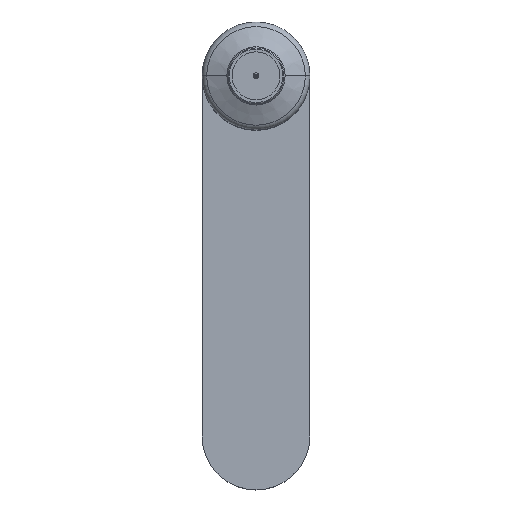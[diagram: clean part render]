
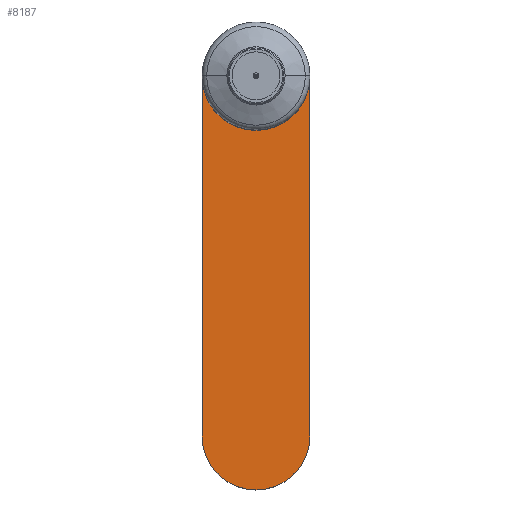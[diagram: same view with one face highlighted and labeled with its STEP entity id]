
A CAD part, top view. The second image highlights one B-rep face of the part: STEP entity #8187.
In plain terms, the highlighted planar face has unit normal (0, 0, 1).
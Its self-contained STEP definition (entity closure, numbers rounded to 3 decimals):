
#47 = AXIS2_PLACEMENT_3D ( 'NONE', #3937, #4751, #92 ) ;
#92 = DIRECTION ( 'NONE',  ( 0., -1., 0. ) ) ;
#249 = ORIENTED_EDGE ( 'NONE', *, *, #4596, .T. ) ;
#308 = DIRECTION ( 'NONE',  ( 0., 1., 0. ) ) ;
#328 = CIRCLE ( 'NONE', #4452, 13.5 ) ;
#339 = CARTESIAN_POINT ( 'NONE',  ( 0., 0., 15. ) ) ;
#1225 = EDGE_CURVE ( 'NONE', #8718, #12245, #10340, .T. ) ;
#1244 = DIRECTION ( 'NONE',  ( 0., -1., 0. ) ) ;
#1376 = VERTEX_POINT ( 'NONE', #10609 ) ;
#1433 = CARTESIAN_POINT ( 'NONE',  ( -13.5, 0., 15. ) ) ;
#1735 = VERTEX_POINT ( 'NONE', #1433 ) ;
#1785 = CARTESIAN_POINT ( 'NONE',  ( 0., -90., 15. ) ) ;
#2687 = CARTESIAN_POINT ( 'NONE',  ( 0., -90., 15. ) ) ;
#2696 = DIRECTION ( 'NONE',  ( 0., 0., 1. ) ) ;
#2769 = EDGE_LOOP ( 'NONE', ( #3797, #10797, #8777, #249, #10382 ) ) ;
#3073 = CARTESIAN_POINT ( 'NONE',  ( 13.5, 0., 15. ) ) ;
#3189 = CARTESIAN_POINT ( 'NONE',  ( -13.5, 0., 15. ) ) ;
#3262 = VECTOR ( 'NONE', #10864, 1000. ) ;
#3564 = CARTESIAN_POINT ( 'NONE',  ( 13.5, -90., 15. ) ) ;
#3732 = DIRECTION ( 'NONE',  ( 0., -1., 0. ) ) ;
#3741 = CARTESIAN_POINT ( 'NONE',  ( 13.5, 0., 15. ) ) ;
#3797 = ORIENTED_EDGE ( 'NONE', *, *, #7877, .T. ) ;
#3937 = CARTESIAN_POINT ( 'NONE',  ( 0., 0., 15. ) ) ;
#4316 = CARTESIAN_POINT ( 'NONE',  ( -13.5, -90., 15. ) ) ;
#4452 = AXIS2_PLACEMENT_3D ( 'NONE', #339, #7090, #1244 ) ;
#4596 = EDGE_CURVE ( 'NONE', #1735, #8718, #10137, .T. ) ;
#4751 = DIRECTION ( 'NONE',  ( 0., 0., -1. ) ) ;
#5572 = EDGE_CURVE ( 'NONE', #1376, #1735, #328, .T. ) ;
#6665 = DIRECTION ( 'NONE',  ( 0., 0., 1. ) ) ;
#7055 = CIRCLE ( 'NONE', #47, 13.5 ) ;
#7090 = DIRECTION ( 'NONE',  ( 0., 0., -1. ) ) ;
#7206 = FACE_OUTER_BOUND ( 'NONE', #2769, .T. ) ;
#7730 = VERTEX_POINT ( 'NONE', #3741 ) ;
#7877 = EDGE_CURVE ( 'NONE', #12245, #7730, #8254, .T. ) ;
#8187 = ADVANCED_FACE ( 'NONE', ( #7206 ), #10381, .T. ) ;
#8254 = LINE ( 'NONE', #3073, #8547 ) ;
#8399 = EDGE_CURVE ( 'NONE', #7730, #1376, #7055, .T. ) ;
#8461 = DIRECTION ( 'NONE',  ( 0., -1., 0. ) ) ;
#8547 = VECTOR ( 'NONE', #308, 1000. ) ;
#8580 = AXIS2_PLACEMENT_3D ( 'NONE', #2687, #6665, #3732 ) ;
#8718 = VERTEX_POINT ( 'NONE', #4316 ) ;
#8745 = AXIS2_PLACEMENT_3D ( 'NONE', #1785, #2696, #8461 ) ;
#8777 = ORIENTED_EDGE ( 'NONE', *, *, #5572, .T. ) ;
#10137 = LINE ( 'NONE', #3189, #3262 ) ;
#10340 = CIRCLE ( 'NONE', #8580, 13.5 ) ;
#10381 = PLANE ( 'NONE',  #8745 ) ;
#10382 = ORIENTED_EDGE ( 'NONE', *, *, #1225, .T. ) ;
#10609 = CARTESIAN_POINT ( 'NONE',  ( 0., -13.5, 15. ) ) ;
#10797 = ORIENTED_EDGE ( 'NONE', *, *, #8399, .T. ) ;
#10864 = DIRECTION ( 'NONE',  ( 0., -1., 0. ) ) ;
#12245 = VERTEX_POINT ( 'NONE', #3564 ) ;
